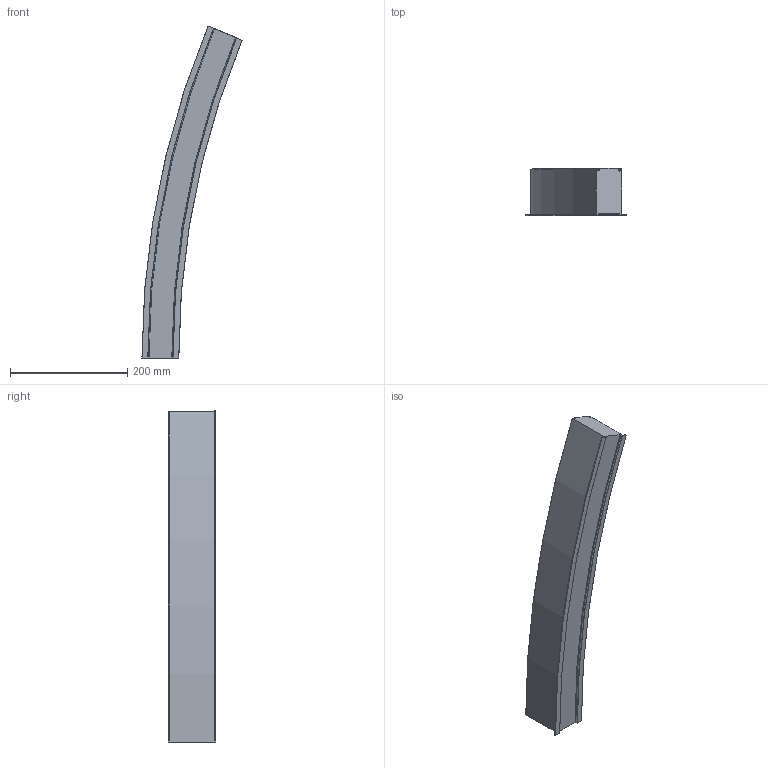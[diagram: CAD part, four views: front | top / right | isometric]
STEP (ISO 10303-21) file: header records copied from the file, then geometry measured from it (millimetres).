
FILE_DESCRIPTION (( 'STEP AP203' ), '1' );
FILE_NAME ('mLight_Swerve 47 Recessed_R1450 mm 22.5 deg.STEP', '2020-04-01T10:08:19', ( '' ), ( '' ), 'SwSTEP 2.0', 'SolidWorks 2017', '' );
FILE_SCHEMA (( 'CONFIG_CONTROL_DESIGN' ));
Length unit declared in the file: millimetre
Products named in the file (1): mLight_Swerve 47 Recessed_R1450 mm 22.5 deg
Bounding box: 170.98 x 80.63 x 566.95 mm (x, y, z)
Volume: 2067537.8 mm3; surface area: 182647.4 mm2
Topology: 1 solids, 1 shells, 54 faces, 156 edges, 104 vertices
Faces by surface type: torus 28, plane 12, cylinder 8, cone 6
Entity records: 1925 total; most frequent: DIRECTION 374, CARTESIAN_POINT 315, ORIENTED_EDGE 312, AXIS2_PLACEMENT_3D 163, EDGE_CURVE 156, CIRCLE 108, VERTEX_POINT 104, EDGE_LOOP 54
